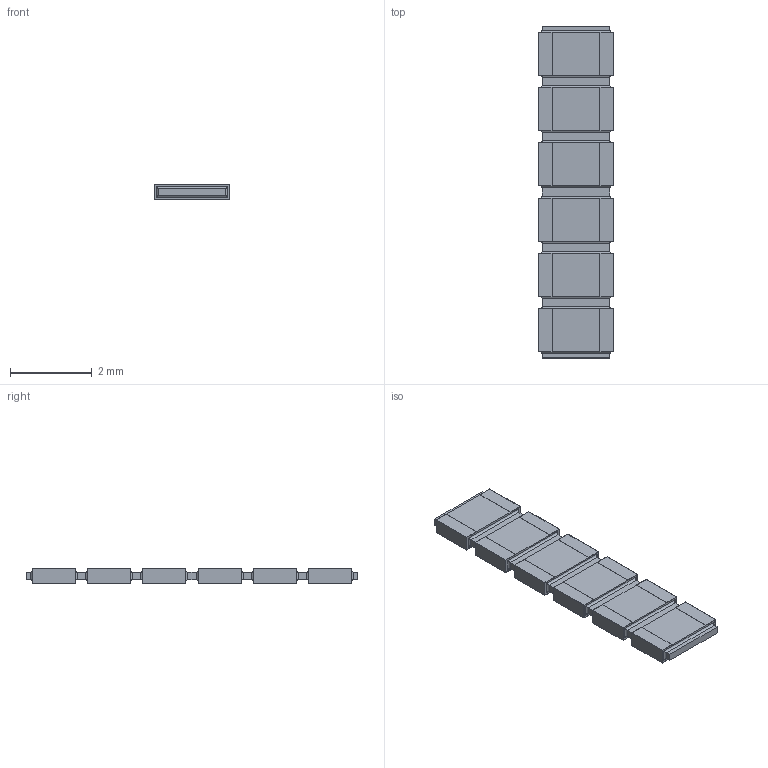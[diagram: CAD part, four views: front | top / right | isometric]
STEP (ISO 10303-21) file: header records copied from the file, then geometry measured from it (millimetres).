
FILE_DESCRIPTION(/* description */ (''),/* implementation_level */ '2;1');
FILE_NAME(/* name */ 'S:\DOCUMENT\AUTOCAD\3D_Modèles\10_3D-pour-VISHAY-COM\PRA\PRAHR135I6_B.stp',/* time_stamp */ '2018-02-02T10:50:51+01:00',/* author */ ('dparmentier'),/* organization */ ('unknown'),/* preprocessor_version */ 'ST-DEVELOPER v17',/* originating_system */ 'Autodesk Inventor 2018',/* authorisation */ '');
FILE_SCHEMA (('AUTOMOTIVE_DESIGN { 1 0 10303 214 3 1 1 }'));
Length unit declared in the file: millimetre
Products named in the file (1): PRAHR135I6_B
Bounding box: 1.85 x 8.1 x 0.38 mm (x, y, z)
Volume: 4.9 mm3; surface area: 65.4 mm2
Topology: 13 solids, 13 shells, 234 faces, 540 edges, 344 vertices
Faces by surface type: plane 186, cylinder 48
Entity records: 6509 total; most frequent: CARTESIAN_POINT 1119, ORIENTED_EDGE 1080, DIRECTION 1058, EDGE_CURVE 540, LINE 492, VECTOR 492, VERTEX_POINT 344, AXIS2_PLACEMENT_3D 283
